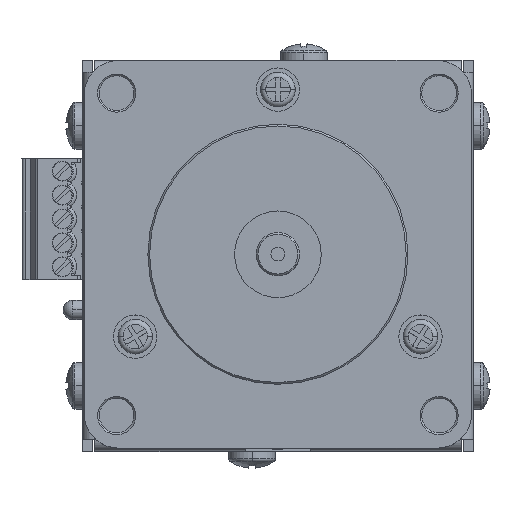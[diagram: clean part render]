
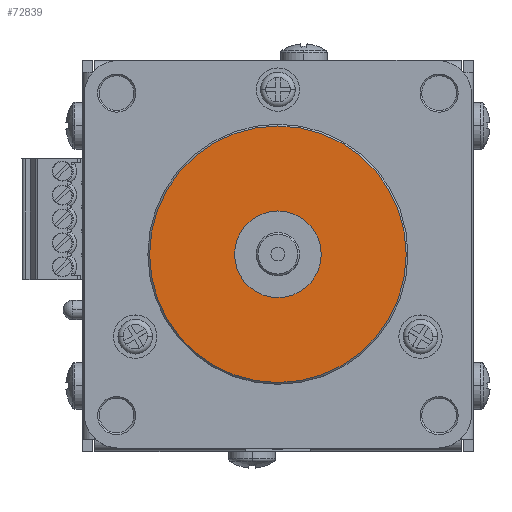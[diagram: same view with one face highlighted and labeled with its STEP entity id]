
A CAD part, top view. The second image highlights one B-rep face of the part: STEP entity #72839.
In plain terms, the highlighted planar face has unit normal (0, 0, 1).
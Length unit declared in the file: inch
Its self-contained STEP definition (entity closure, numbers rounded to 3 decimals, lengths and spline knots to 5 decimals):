
#3160 = VERTEX_POINT ( 'NONE', #96684 ) ;
#4482 = EDGE_LOOP ( 'NONE', ( #109396, #92337 ) ) ;
#5998 = DIRECTION ( 'NONE',  ( 0., 0., 1. ) ) ;
#8525 = EDGE_LOOP ( 'NONE', ( #109619, #52431 ) ) ;
#10067 = FACE_OUTER_BOUND ( 'NONE', #8525, .T. ) ;
#10621 = VERTEX_POINT ( 'NONE', #56739 ) ;
#16358 = EDGE_CURVE ( 'NONE', #154484, #10621, #157267, .T. ) ;
#16872 = CARTESIAN_POINT ( 'NONE',  ( 0., 0., 0.06 ) ) ;
#20614 = CARTESIAN_POINT ( 'NONE',  ( 0.74, 0., 0.06 ) ) ;
#26291 = DIRECTION ( 'NONE',  ( 0., 0., 1. ) ) ;
#29242 = DIRECTION ( 'NONE',  ( 1., 0., 0. ) ) ;
#33170 = CARTESIAN_POINT ( 'NONE',  ( 0.25, 0., 0.06 ) ) ;
#34353 = CIRCLE ( 'NONE', #114019, 0.25 ) ;
#38046 = PLANE ( 'NONE',  #54797 ) ;
#42647 = FACE_BOUND ( 'NONE', #4482, .T. ) ;
#52431 = ORIENTED_EDGE ( 'NONE', *, *, #16358, .T. ) ;
#52684 = DIRECTION ( 'NONE',  ( 0., 0., 1. ) ) ;
#53318 = EDGE_CURVE ( 'NONE', #61362, #3160, #34353, .T. ) ;
#54556 = AXIS2_PLACEMENT_3D ( 'NONE', #63545, #149393, #75854 ) ;
#54797 = AXIS2_PLACEMENT_3D ( 'NONE', #99656, #26291, #112013 ) ;
#56739 = CARTESIAN_POINT ( 'NONE',  ( -0.74, 0., 0.06 ) ) ;
#61362 = VERTEX_POINT ( 'NONE', #33170 ) ;
#63545 = CARTESIAN_POINT ( 'NONE',  ( 0., 0., 0.06 ) ) ;
#72839 = ADVANCED_FACE ( 'NONE', ( #10067, #42647 ), #38046, .T. ) ;
#74956 = AXIS2_PLACEMENT_3D ( 'NONE', #79376, #5998, #91778 ) ;
#75854 = DIRECTION ( 'NONE',  ( 1., 0., 0. ) ) ;
#78746 = CIRCLE ( 'NONE', #135462, 0.74 ) ;
#79376 = CARTESIAN_POINT ( 'NONE',  ( 0., 0., 0.06 ) ) ;
#91778 = DIRECTION ( 'NONE',  ( 1., 0., 0. ) ) ;
#92337 = ORIENTED_EDGE ( 'NONE', *, *, #53318, .F. ) ;
#96684 = CARTESIAN_POINT ( 'NONE',  ( -0.25, 0., 0.06 ) ) ;
#99656 = CARTESIAN_POINT ( 'NONE',  ( 0., 0., 0.06 ) ) ;
#102672 = DIRECTION ( 'NONE',  ( 0., 0., 1. ) ) ;
#108196 = EDGE_CURVE ( 'NONE', #3160, #61362, #117708, .T. ) ;
#109396 = ORIENTED_EDGE ( 'NONE', *, *, #108196, .F. ) ;
#109619 = ORIENTED_EDGE ( 'NONE', *, *, #136831, .T. ) ;
#112013 = DIRECTION ( 'NONE',  ( 1., 0., 0. ) ) ;
#114019 = AXIS2_PLACEMENT_3D ( 'NONE', #126155, #52684, #138548 ) ;
#117708 = CIRCLE ( 'NONE', #54556, 0.25 ) ;
#126155 = CARTESIAN_POINT ( 'NONE',  ( 0., 0., 0.06 ) ) ;
#135462 = AXIS2_PLACEMENT_3D ( 'NONE', #16872, #102672, #29242 ) ;
#136831 = EDGE_CURVE ( 'NONE', #10621, #154484, #78746, .T. ) ;
#138548 = DIRECTION ( 'NONE',  ( 1., 0., 0. ) ) ;
#149393 = DIRECTION ( 'NONE',  ( 0., 0., 1. ) ) ;
#154484 = VERTEX_POINT ( 'NONE', #20614 ) ;
#157267 = CIRCLE ( 'NONE', #74956, 0.74 ) ;
